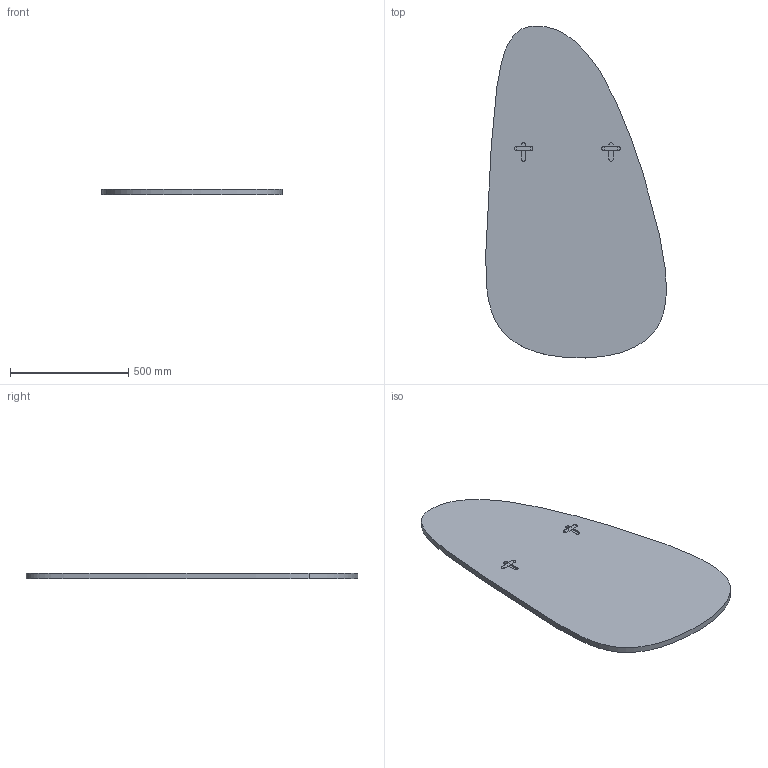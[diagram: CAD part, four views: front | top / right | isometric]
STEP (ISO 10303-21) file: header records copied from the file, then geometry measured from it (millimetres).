
FILE_DESCRIPTION (( 'STEP AP203' ), '1' );
FILE_NAME ('ROU02_Rounded_140,5x76x5.STEP', '2024-08-06T07:53:51', ( '' ), ( '' ), 'SwSTEP 2.0', 'SolidWorks 2022', '' );
FILE_SCHEMA (( 'CONFIG_CONTROL_DESIGN' ));
Length unit declared in the file: millimetre
Products named in the file (3): cornice parete_bigger; ROU00002-00-ROUNDED STRUTTURA GREZZA 140,5X76,5_ROUNDED ROU02 140,5x76,5; ROU02_Rounded_140,5x76x5
Assembly tree (1 placements, depth 2):
  cornice parete_bigger
  ROU02_Rounded_140,5x76x5
    ROU00002-00-ROUNDED STRUTTURA GREZZA 140,5X76,5_ROUNDED ROU02 140,5x76,5
Bounding box: 765.24 x 1405.73 x 25 mm (x, y, z)
Volume: 17084555.3 mm3; surface area: 1780861.3 mm2
Topology: 3 solids, 3 shells, 55 faces, 138 edges, 92 vertices
Faces by surface type: plane 33, cylinder 18, bspline 4
Entity records: 2554 total; most frequent: CARTESIAN_POINT 957, DIRECTION 276, ORIENTED_EDGE 276, EDGE_CURVE 138, VECTOR 94, LINE 94, VERTEX_POINT 92, AXIS2_PLACEMENT_3D 91
